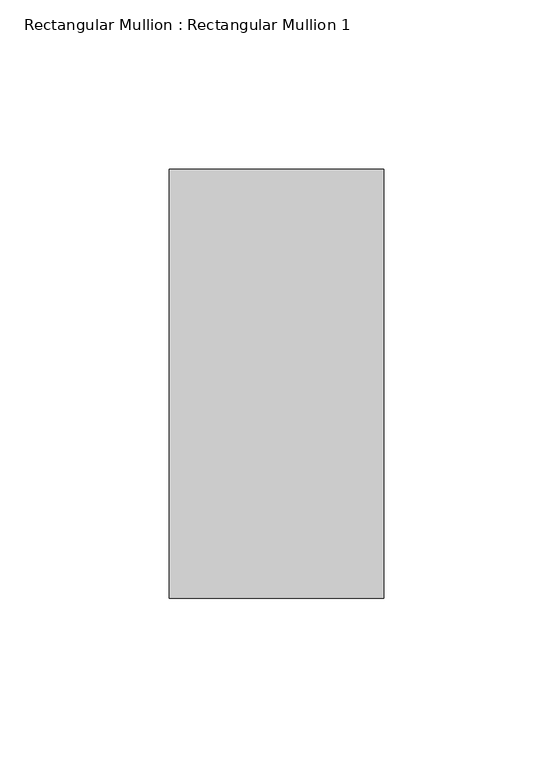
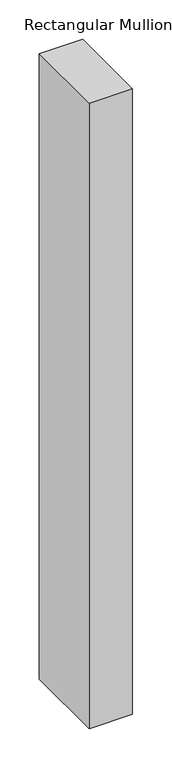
"""IFC4 building model written with IfcOpenShell, lengths in millimetres: member geometry, Rectangular Mullion : Rectangular Mullion 1."""

from ifc_helpers import new_model, si_unit, frame, origin, place, context, project, spatial, polyline, outline, extrude, source, transform, mapped, element, save


def rectangular_mullion_rectangular_mullion_1_88aa5c81(model_context):
    return source(origin(), model_context, "Body", "SweptSolid", [
        extrude(outline(polyline([(31.75, 63.5), (31.75, -63.5), (-31.75, -63.5), (-31.75, 63.5), (31.75, 63.5)])), frame((0.0, 0.0, -971.55), z_axis=(0.0, 0.0, 1.0), x_axis=(1.0, 0.0, 0.0)), (0.0, 0.0, 1.0), 971.55),
    ])


if __name__ == "__main__":
    model = new_model("IFC4")
    model_context = context("Model", 3, world=origin())
    ifc_project = project(units=[si_unit("LENGTHUNIT", "METRE", prefix="MILLI")], contexts=[model_context])
    site = spatial("IfcSite", under=ifc_project)
    building = spatial("IfcBuilding", under=site)
    placement = place(None, origin())
    rectangular_mullion_rectangular_mullion_1_shape = rectangular_mullion_rectangular_mullion_1_88aa5c81(model_context)
    element("IfcMember", 1, ObjectType="Rectangular Mullion : Rectangular Mullion 1", at=placement, inside=building, context=model_context, shape_type="MappedRepresentation", body=[
        mapped(rectangular_mullion_rectangular_mullion_1_shape, transform((0.0, 0.0, 0.0), x_axis=(1.0, 0.0, 0.0), y_axis=(0.0, 1.0, 0.0), z_axis=(0.0, 0.0, 1.0))),
    ])
    save(model, "model.ifc")
